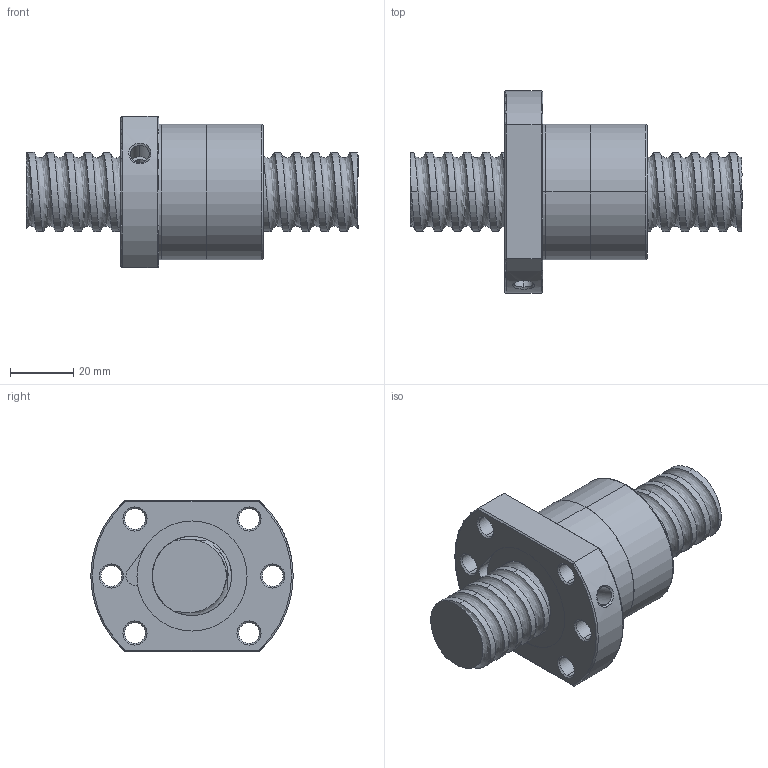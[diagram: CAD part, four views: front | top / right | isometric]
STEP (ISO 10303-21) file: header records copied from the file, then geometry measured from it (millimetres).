
FILE_DESCRIPTION (( 'STEP AP214' ), '1' );
FILE_NAME ('FSDC02506T4-C-C.STEP', '2010-06-25T11:31:20', ( 'XPAUTO' ), ( 'XPAUTO' ), 'SwSTEP 2.0', 'SolidWorks 2007', '' );
FILE_SCHEMA (( 'AUTOMOTIVE_DESIGN' ));
Length unit declared in the file: millimetre
Products named in the file (3): FSDC02506T4-C-C; FSDC02506T4-C-C.sldasm-Part-2_預設; FSDC02506T4-C-C.sldasm-Part-1_預設
Assembly tree (2 placements, depth 2):
  FSDC02506T4-C-C
    FSDC02506T4-C-C.sldasm-Part-1_預設
    FSDC02506T4-C-C.sldasm-Part-2_預設
Bounding box: 105 x 64 x 48 mm (x, y, z)
Volume: 100553.3 mm3; surface area: 27419 mm2
Topology: 2 solids, 2 shells, 131 faces, 327 edges, 205 vertices
Faces by surface type: cylinder 74, cone 24, plane 22, torus 6, bspline 5
Entity records: 26048 total; most frequent: CARTESIAN_POINT 22945, ORIENTED_EDGE 654, DIRECTION 593, EDGE_CURVE 327, AXIS2_PLACEMENT_3D 239, VERTEX_POINT 205, EDGE_LOOP 152, ADVANCED_FACE 131
